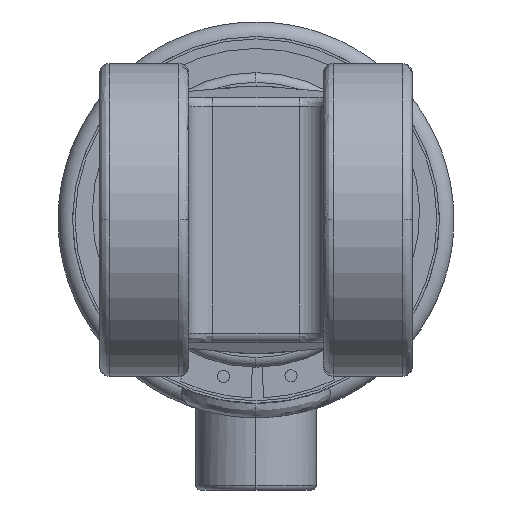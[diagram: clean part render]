
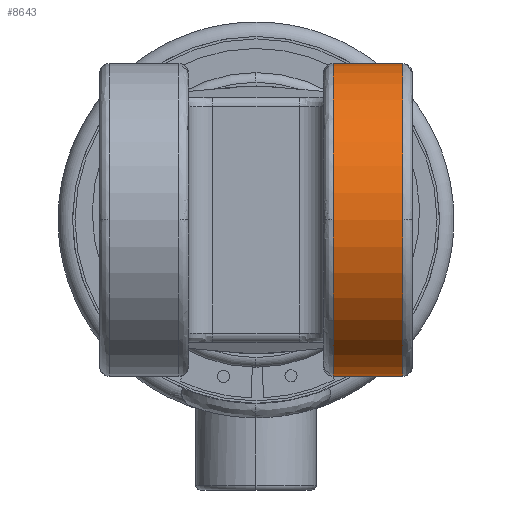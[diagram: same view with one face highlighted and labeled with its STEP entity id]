
A CAD part, left-side view. The second image highlights one B-rep face of the part: STEP entity #8643.
In plain terms, the highlighted cylindrical face has radius 32.5 mm (diameter 65 mm), a partial arc.
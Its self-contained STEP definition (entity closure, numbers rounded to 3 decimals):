
#257 = DIRECTION ( 'NONE',  ( 1., 0., 0. ) ) ;
#368 = CARTESIAN_POINT ( 'NONE',  ( 44.795, -16., 0. ) ) ;
#594 = CARTESIAN_POINT ( 'NONE',  ( 44.795, -30.5, 32.5 ) ) ;
#638 = DIRECTION ( 'NONE',  ( 0., 0., 1. ) ) ;
#1041 = DIRECTION ( 'NONE',  ( 0., 1., 0. ) ) ;
#1241 = DIRECTION ( 'NONE',  ( 1., 0., 0. ) ) ;
#1878 = CARTESIAN_POINT ( 'NONE',  ( 44.795, -32.5, 0. ) ) ;
#1959 = CARTESIAN_POINT ( 'NONE',  ( 44.795, -30.5, 0. ) ) ;
#2058 = VERTEX_POINT ( 'NONE', #9934 ) ;
#2839 = DIRECTION ( 'NONE',  ( 0., 0., 1. ) ) ;
#3087 = EDGE_CURVE ( 'NONE', #7171, #4579, #10419, .T. ) ;
#3293 = CARTESIAN_POINT ( 'NONE',  ( 44.795, -16., -32.5 ) ) ;
#3451 = AXIS2_PLACEMENT_3D ( 'NONE', #10733, #5539, #257 ) ;
#3864 = ORIENTED_EDGE ( 'NONE', *, *, #8177, .T. ) ;
#4139 = AXIS2_PLACEMENT_3D ( 'NONE', #368, #6545, #1241 ) ;
#4506 = AXIS2_PLACEMENT_3D ( 'NONE', #1878, #1041, #7215 ) ;
#4546 = CIRCLE ( 'NONE', #5854, 32.5 ) ;
#4579 = VERTEX_POINT ( 'NONE', #9769 ) ;
#4723 = VERTEX_POINT ( 'NONE', #4949 ) ;
#4949 = CARTESIAN_POINT ( 'NONE',  ( 44.795, -30.5, -32.5 ) ) ;
#5513 = VECTOR ( 'NONE', #9500, 1000. ) ;
#5539 = DIRECTION ( 'NONE',  ( 0., 1., 0. ) ) ;
#5676 = VERTEX_POINT ( 'NONE', #3293 ) ;
#5834 = VECTOR ( 'NONE', #10229, 1000. ) ;
#5854 = AXIS2_PLACEMENT_3D ( 'NONE', #11129, #5920, #638 ) ;
#5920 = DIRECTION ( 'NONE',  ( 0., 1., 0. ) ) ;
#5934 = ORIENTED_EDGE ( 'NONE', *, *, #6374, .F. ) ;
#6035 = CARTESIAN_POINT ( 'NONE',  ( 44.795, -32.5, -32.5 ) ) ;
#6374 = EDGE_CURVE ( 'NONE', #4579, #2058, #8995, .T. ) ;
#6384 = ORIENTED_EDGE ( 'NONE', *, *, #9621, .T. ) ;
#6545 = DIRECTION ( 'NONE',  ( 0., 1., 0. ) ) ;
#6634 = CYLINDRICAL_SURFACE ( 'NONE', #4506, 32.5 ) ;
#7171 = VERTEX_POINT ( 'NONE', #594 ) ;
#7215 = DIRECTION ( 'NONE',  ( 0., 0., 1. ) ) ;
#7629 = CARTESIAN_POINT ( 'NONE',  ( 44.795, -32.5, 32.5 ) ) ;
#7689 = ORIENTED_EDGE ( 'NONE', *, *, #9839, .T. ) ;
#7815 = CIRCLE ( 'NONE', #3451, 32.5 ) ;
#8102 = DIRECTION ( 'NONE',  ( 0., 1., 0. ) ) ;
#8116 = EDGE_LOOP ( 'NONE', ( #6384, #3864, #7689, #10321, #5934, #8955 ) ) ;
#8177 = EDGE_CURVE ( 'NONE', #9854, #4723, #8773, .T. ) ;
#8449 = AXIS2_PLACEMENT_3D ( 'NONE', #1959, #8102, #2839 ) ;
#8643 = ADVANCED_FACE ( 'NONE', ( #11243 ), #6634, .T. ) ;
#8773 = CIRCLE ( 'NONE', #8449, 32.5 ) ;
#8955 = ORIENTED_EDGE ( 'NONE', *, *, #3087, .F. ) ;
#8995 = CIRCLE ( 'NONE', #4139, 32.5 ) ;
#9500 = DIRECTION ( 'NONE',  ( 0., 1., 0. ) ) ;
#9537 = CARTESIAN_POINT ( 'NONE',  ( 77.295, -30.5, 0. ) ) ;
#9621 = EDGE_CURVE ( 'NONE', #7171, #9854, #4546, .T. ) ;
#9769 = CARTESIAN_POINT ( 'NONE',  ( 44.795, -16., 32.5 ) ) ;
#9839 = EDGE_CURVE ( 'NONE', #4723, #5676, #10122, .T. ) ;
#9854 = VERTEX_POINT ( 'NONE', #9537 ) ;
#9934 = CARTESIAN_POINT ( 'NONE',  ( 77.295, -16., 0. ) ) ;
#10122 = LINE ( 'NONE', #6035, #5513 ) ;
#10229 = DIRECTION ( 'NONE',  ( 0., 1., 0. ) ) ;
#10321 = ORIENTED_EDGE ( 'NONE', *, *, #10962, .F. ) ;
#10419 = LINE ( 'NONE', #7629, #5834 ) ;
#10733 = CARTESIAN_POINT ( 'NONE',  ( 44.795, -16., 0. ) ) ;
#10962 = EDGE_CURVE ( 'NONE', #2058, #5676, #7815, .T. ) ;
#11129 = CARTESIAN_POINT ( 'NONE',  ( 44.795, -30.5, 0. ) ) ;
#11243 = FACE_OUTER_BOUND ( 'NONE', #8116, .T. ) ;
